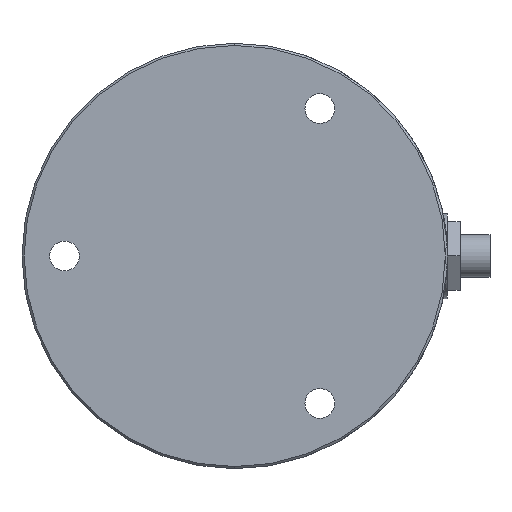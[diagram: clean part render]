
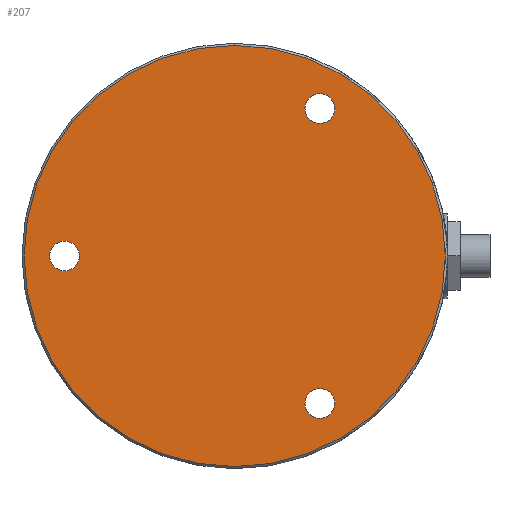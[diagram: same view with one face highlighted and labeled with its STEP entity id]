
A CAD part, front view. The second image highlights one B-rep face of the part: STEP entity #207.
In plain terms, the highlighted planar face has unit normal (0, -1, 0).
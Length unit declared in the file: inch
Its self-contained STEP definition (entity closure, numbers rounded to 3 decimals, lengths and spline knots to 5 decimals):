
#31 = VERTEX_POINT ( 'NONE', #457 ) ;
#100 = VERTEX_POINT ( 'NONE', #550 ) ;
#156 = EDGE_CURVE ( 'NONE', #2391, #100, #728, .T. ) ;
#186 = ORIENTED_EDGE ( 'NONE', *, *, #2479, .F. ) ;
#187 = ORIENTED_EDGE ( 'NONE', *, *, #209, .F. ) ;
#188 = EDGE_CURVE ( 'NONE', #2483, #2549, #837, .T. ) ;
#199 = ORIENTED_EDGE ( 'NONE', *, *, #2548, .T. ) ;
#200 = ORIENTED_EDGE ( 'NONE', *, *, #2534, .T. ) ;
#201 = ORIENTED_EDGE ( 'NONE', *, *, #2373, .F. ) ;
#202 = ORIENTED_EDGE ( 'NONE', *, *, #210, .F. ) ;
#203 = EDGE_CURVE ( 'NONE', #2388, #2355, #817, .T. ) ;
#207 = ADVANCED_FACE ( 'NONE', ( #818, #760, #759, #758 ), #769, .F. ) ;
#208 = EDGE_LOOP ( 'NONE', ( #187, #201 ) ) ;
#209 = EDGE_CURVE ( 'NONE', #2374, #31, #768, .T. ) ;
#210 = EDGE_CURVE ( 'NONE', #100, #2391, #831, .T. ) ;
#211 = ORIENTED_EDGE ( 'NONE', *, *, #156, .F. ) ;
#223 = EDGE_LOOP ( 'NONE', ( #224, #186 ) ) ;
#224 = ORIENTED_EDGE ( 'NONE', *, *, #203, .F. ) ;
#225 = ORIENTED_EDGE ( 'NONE', *, *, #188, .T. ) ;
#228 = EDGE_LOOP ( 'NONE', ( #225, #199, #200 ) ) ;
#278 = EDGE_LOOP ( 'NONE', ( #202, #211 ) ) ;
#457 = CARTESIAN_POINT ( 'NONE',  ( 0.5, 0., -0.77853 ) ) ;
#550 = CARTESIAN_POINT ( 'NONE',  ( -1., 0., -0.0875 ) ) ;
#728 = CIRCLE ( 'NONE', #737, 0.0875 ) ;
#735 = DIRECTION ( 'NONE',  ( 1., 0., 0. ) ) ;
#736 = CARTESIAN_POINT ( 'NONE',  ( -1., 0., 0. ) ) ;
#737 = AXIS2_PLACEMENT_3D ( 'NONE', #736, #750, #735 ) ;
#750 = DIRECTION ( 'NONE',  ( 0., -1., 0. ) ) ;
#758 = FACE_BOUND ( 'NONE', #278, .T. ) ;
#759 = FACE_BOUND ( 'NONE', #208, .T. ) ;
#760 = FACE_BOUND ( 'NONE', #223, .T. ) ;
#761 = DIRECTION ( 'NONE',  ( 1., 0., 0. ) ) ;
#762 = DIRECTION ( 'NONE',  ( 0., -1., 0. ) ) ;
#763 = AXIS2_PLACEMENT_3D ( 'NONE', #816, #762, #761 ) ;
#764 = DIRECTION ( 'NONE',  ( 0., 0., 1. ) ) ;
#765 = DIRECTION ( 'NONE',  ( 0., 1., 0. ) ) ;
#766 = CARTESIAN_POINT ( 'NONE',  ( 0., 0., 0. ) ) ;
#767 = AXIS2_PLACEMENT_3D ( 'NONE', #766, #765, #764 ) ;
#768 = CIRCLE ( 'NONE', #907, 0.0875 ) ;
#769 = PLANE ( 'NONE',  #767 ) ;
#816 = CARTESIAN_POINT ( 'NONE',  ( 0.5, 0., 0.86603 ) ) ;
#817 = CIRCLE ( 'NONE', #763, 0.0875 ) ;
#818 = FACE_OUTER_BOUND ( 'NONE', #228, .T. ) ;
#828 = DIRECTION ( 'NONE',  ( 1., 0., 0. ) ) ;
#829 = DIRECTION ( 'NONE',  ( 0., -1., 0. ) ) ;
#830 = AXIS2_PLACEMENT_3D ( 'NONE', #908, #829, #828 ) ;
#831 = CIRCLE ( 'NONE', #830, 0.0875 ) ;
#835 = CARTESIAN_POINT ( 'NONE',  ( 0., 0., 0. ) ) ;
#836 = AXIS2_PLACEMENT_3D ( 'NONE', #835, #864, #863 ) ;
#837 = CIRCLE ( 'NONE', #836, 1.2375 ) ;
#863 = DIRECTION ( 'NONE',  ( 0., 0., 1. ) ) ;
#864 = DIRECTION ( 'NONE',  ( 0., -1., 0. ) ) ;
#904 = DIRECTION ( 'NONE',  ( 1., 0., 0. ) ) ;
#905 = DIRECTION ( 'NONE',  ( 0., -1., 0. ) ) ;
#906 = CARTESIAN_POINT ( 'NONE',  ( 0.5, 0., -0.86603 ) ) ;
#907 = AXIS2_PLACEMENT_3D ( 'NONE', #906, #905, #904 ) ;
#908 = CARTESIAN_POINT ( 'NONE',  ( -1., 0., 0. ) ) ;
#1542 = CARTESIAN_POINT ( 'NONE',  ( -1., 0., 0.0875 ) ) ;
#1584 = CARTESIAN_POINT ( 'NONE',  ( 0.5, 0., -0.95353 ) ) ;
#1585 = DIRECTION ( 'NONE',  ( 1., 0., 0. ) ) ;
#1586 = DIRECTION ( 'NONE',  ( 0., -1., 0. ) ) ;
#1587 = CARTESIAN_POINT ( 'NONE',  ( 0.5, 0., -0.86603 ) ) ;
#1588 = AXIS2_PLACEMENT_3D ( 'NONE', #1587, #1586, #1585 ) ;
#1589 = CIRCLE ( 'NONE', #1588, 0.0875 ) ;
#1618 = CARTESIAN_POINT ( 'NONE',  ( 0.5, 0., 0.95353 ) ) ;
#1656 = CARTESIAN_POINT ( 'NONE',  ( 0.5, 0., 0.77853 ) ) ;
#2022 = CIRCLE ( 'NONE', #2038, 0.0875 ) ;
#2037 = CARTESIAN_POINT ( 'NONE',  ( 0.5, 0., 0.86603 ) ) ;
#2038 = AXIS2_PLACEMENT_3D ( 'NONE', #2037, #2050, #2049 ) ;
#2049 = DIRECTION ( 'NONE',  ( 1., 0., 0. ) ) ;
#2050 = DIRECTION ( 'NONE',  ( 0., -1., 0. ) ) ;
#2162 = CARTESIAN_POINT ( 'NONE',  ( 1.2375, 0., 0. ) ) ;
#2196 = DIRECTION ( 'NONE',  ( 0., 0., 1. ) ) ;
#2197 = DIRECTION ( 'NONE',  ( 0., -1., 0. ) ) ;
#2198 = CARTESIAN_POINT ( 'NONE',  ( 0., 0., 0. ) ) ;
#2199 = AXIS2_PLACEMENT_3D ( 'NONE', #2198, #2197, #2196 ) ;
#2200 = CIRCLE ( 'NONE', #2199, 1.2375 ) ;
#2204 = CARTESIAN_POINT ( 'NONE',  ( 0., 0., 1.2375 ) ) ;
#2205 = DIRECTION ( 'NONE',  ( 0., 0., 1. ) ) ;
#2206 = DIRECTION ( 'NONE',  ( 0., -1., 0. ) ) ;
#2207 = CARTESIAN_POINT ( 'NONE',  ( 0., 0., 0. ) ) ;
#2208 = AXIS2_PLACEMENT_3D ( 'NONE', #2207, #2206, #2205 ) ;
#2209 = CIRCLE ( 'NONE', #2208, 1.2375 ) ;
#2257 = CARTESIAN_POINT ( 'NONE',  ( 0., 0., -1.2375 ) ) ;
#2355 = VERTEX_POINT ( 'NONE', #1618 ) ;
#2373 = EDGE_CURVE ( 'NONE', #31, #2374, #1589, .T. ) ;
#2374 = VERTEX_POINT ( 'NONE', #1584 ) ;
#2388 = VERTEX_POINT ( 'NONE', #1656 ) ;
#2391 = VERTEX_POINT ( 'NONE', #1542 ) ;
#2479 = EDGE_CURVE ( 'NONE', #2355, #2388, #2022, .T. ) ;
#2483 = VERTEX_POINT ( 'NONE', #2162 ) ;
#2504 = VERTEX_POINT ( 'NONE', #2257 ) ;
#2534 = EDGE_CURVE ( 'NONE', #2504, #2483, #2200, .T. ) ;
#2548 = EDGE_CURVE ( 'NONE', #2549, #2504, #2209, .T. ) ;
#2549 = VERTEX_POINT ( 'NONE', #2204 ) ;
